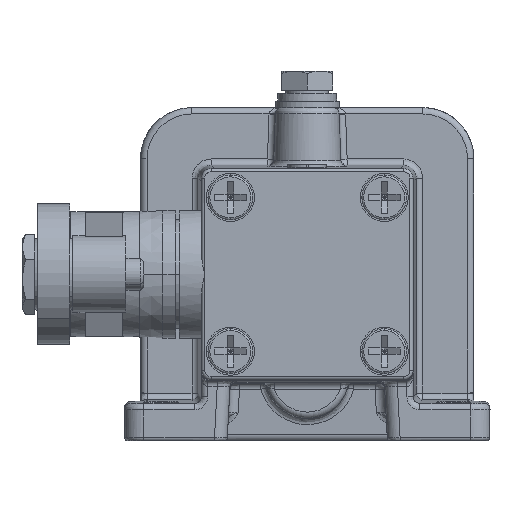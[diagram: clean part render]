
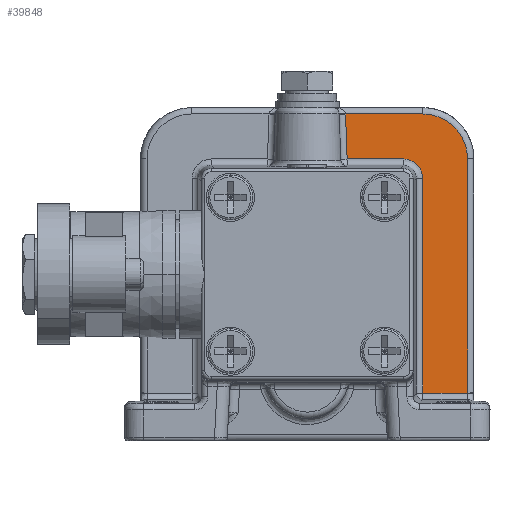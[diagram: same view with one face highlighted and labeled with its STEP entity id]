
A CAD part, left-side view. The second image highlights one B-rep face of the part: STEP entity #39848.
In plain terms, the highlighted planar face has unit normal (-1, 0, 0).
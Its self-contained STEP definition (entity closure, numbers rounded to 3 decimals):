
#2155 = CARTESIAN_POINT ( 'NONE',  ( -23.603, -5.971, 25. ) ) ;
#2448 = FACE_OUTER_BOUND ( 'NONE', #27578, .T. ) ;
#4112 = DIRECTION ( 'NONE',  ( 0., 0., 1. ) ) ;
#4348 = CARTESIAN_POINT ( 'NONE',  ( -23.603, -25., 18. ) ) ;
#5510 = CARTESIAN_POINT ( 'NONE',  ( -23.603, -16.74, 17.983 ) ) ;
#7560 = EDGE_CURVE ( 'NONE', #26526, #25307, #66901, .T. ) ;
#7666 = ORIENTED_EDGE ( 'NONE', *, *, #52006, .T. ) ;
#9819 =( BOUNDED_CURVE ( )  B_SPLINE_CURVE ( 3, ( #42510, #15851, #5510, #15622 ),
 .UNSPECIFIED., .F., .T. ) 
 B_SPLINE_CURVE_WITH_KNOTS ( ( 4, 4 ),
 ( 5.476, 7.047 ),
 .UNSPECIFIED. ) 
 CURVE ( )  GEOMETRIC_REPRESENTATION_ITEM ( )  RATIONAL_B_SPLINE_CURVE ( ( 1., 0.805, 0.805, 1. ) ) 
 REPRESENTATION_ITEM ( '' )  );
#10230 = DIRECTION ( 'NONE',  ( 0., 0.707, 0.707 ) ) ;
#11299 = EDGE_CURVE ( 'NONE', #40488, #42470, #48031, .T. ) ;
#12684 = EDGE_CURVE ( 'NONE', #62670, #41741, #67865, .T. ) ;
#14211 = EDGE_CURVE ( 'NONE', #43391, #62670, #39700, .T. ) ;
#15070 = ORIENTED_EDGE ( 'NONE', *, *, #42150, .T. ) ;
#15411 = CARTESIAN_POINT ( 'NONE',  ( -23.603, -17.983, 14.983 ) ) ;
#15419 = CARTESIAN_POINT ( 'NONE',  ( -23.603, -18., 18. ) ) ;
#15622 = CARTESIAN_POINT ( 'NONE',  ( -23.603, -14.983, 17.983 ) ) ;
#15851 = CARTESIAN_POINT ( 'NONE',  ( -23.603, -17.983, 16.74 ) ) ;
#16414 = CARTESIAN_POINT ( 'NONE',  ( -23.603, -6.216, 17.983 ) ) ;
#16941 = ORIENTED_EDGE ( 'NONE', *, *, #22613, .F. ) ;
#17682 = DIRECTION ( 'NONE',  ( 0., 1., 0. ) ) ;
#19481 = CARTESIAN_POINT ( 'NONE',  ( -23.603, -25., 18. ) ) ;
#20199 = ORIENTED_EDGE ( 'NONE', *, *, #11299, .T. ) ;
#21036 = PLANE ( 'NONE',  #39888 ) ;
#21675 = CARTESIAN_POINT ( 'NONE',  ( -23.603, -18., 25. ) ) ;
#22218 = VERTEX_POINT ( 'NONE', #21675 ) ;
#22613 = EDGE_CURVE ( 'NONE', #25307, #43391, #9819, .T. ) ;
#23347 = EDGE_CURVE ( 'NONE', #40488, #26526, #28913, .T. ) ;
#25307 = VERTEX_POINT ( 'NONE', #31146 ) ;
#26463 = VECTOR ( 'NONE', #17682, 1000. ) ;
#26526 = VERTEX_POINT ( 'NONE', #65570 ) ;
#27578 = EDGE_LOOP ( 'NONE', ( #20199, #15070, #7666, #61967, #67019, #16941, #60569, #35838 ) ) ;
#28388 = CARTESIAN_POINT ( 'NONE',  ( -23.603, -6.216, 17.983 ) ) ;
#28913 = LINE ( 'NONE', #54514, #26463 ) ;
#30584 = VECTOR ( 'NONE', #4112, 1000. ) ;
#31119 = CARTESIAN_POINT ( 'NONE',  ( -23.603, 0., 0. ) ) ;
#31146 = CARTESIAN_POINT ( 'NONE',  ( -23.603, -17.983, 14.983 ) ) ;
#31601 = CARTESIAN_POINT ( 'NONE',  ( -23.603, -5.971, 25. ) ) ;
#35838 = ORIENTED_EDGE ( 'NONE', *, *, #23347, .F. ) ;
#36724 = CARTESIAN_POINT ( 'NONE',  ( -23.603, -25., -18.524 ) ) ;
#38473 = DIRECTION ( 'NONE',  ( 0., 0., 1. ) ) ;
#39016 = DIRECTION ( 'NONE',  ( 0., 1., 0. ) ) ;
#39700 = LINE ( 'NONE', #28388, #57058 ) ;
#39848 = ADVANCED_FACE ( 'NONE', ( #2448 ), #21036, .T. ) ;
#39888 = AXIS2_PLACEMENT_3D ( 'NONE', #31119, #57898, #10230 ) ;
#40488 = VERTEX_POINT ( 'NONE', #36724 ) ;
#41599 = DIRECTION ( 'NONE',  ( 0., 1., 0. ) ) ;
#41741 = VERTEX_POINT ( 'NONE', #31601 ) ;
#42150 = EDGE_CURVE ( 'NONE', #42470, #22218, #60030, .T. ) ;
#42470 = VERTEX_POINT ( 'NONE', #19481 ) ;
#42510 = CARTESIAN_POINT ( 'NONE',  ( -23.603, -17.983, 14.983 ) ) ;
#43391 = VERTEX_POINT ( 'NONE', #63900 ) ;
#48031 = LINE ( 'NONE', #4348, #30584 ) ;
#50345 = LINE ( 'NONE', #2155, #66819 ) ;
#52006 = EDGE_CURVE ( 'NONE', #22218, #41741, #50345, .T. ) ;
#53715 = VECTOR ( 'NONE', #38473, 1000. ) ;
#53819 = VECTOR ( 'NONE', #63669, 1000. ) ;
#54063 = AXIS2_PLACEMENT_3D ( 'NONE', #15419, #67491, #41599 ) ;
#54514 = CARTESIAN_POINT ( 'NONE',  ( -23.603, -25., -18.524 ) ) ;
#57058 = VECTOR ( 'NONE', #39016, 1000. ) ;
#57898 = DIRECTION ( 'NONE',  ( -1., 0., 0. ) ) ;
#59277 = DIRECTION ( 'NONE',  ( 0., 1., 0. ) ) ;
#60030 = CIRCLE ( 'NONE', #54063, 7. ) ;
#60569 = ORIENTED_EDGE ( 'NONE', *, *, #7560, .F. ) ;
#61967 = ORIENTED_EDGE ( 'NONE', *, *, #12684, .F. ) ;
#62670 = VERTEX_POINT ( 'NONE', #66789 ) ;
#63669 = DIRECTION ( 'NONE',  ( 0., 0.035, 0.999 ) ) ;
#63900 = CARTESIAN_POINT ( 'NONE',  ( -23.603, -14.983, 17.983 ) ) ;
#65570 = CARTESIAN_POINT ( 'NONE',  ( -23.603, -17.983, -18.524 ) ) ;
#66789 = CARTESIAN_POINT ( 'NONE',  ( -23.603, -6.216, 17.983 ) ) ;
#66819 = VECTOR ( 'NONE', #59277, 1000. ) ;
#66901 = LINE ( 'NONE', #15411, #53715 ) ;
#67019 = ORIENTED_EDGE ( 'NONE', *, *, #14211, .F. ) ;
#67491 = DIRECTION ( 'NONE',  ( -1., 0., 0. ) ) ;
#67865 = LINE ( 'NONE', #16414, #53819 ) ;
